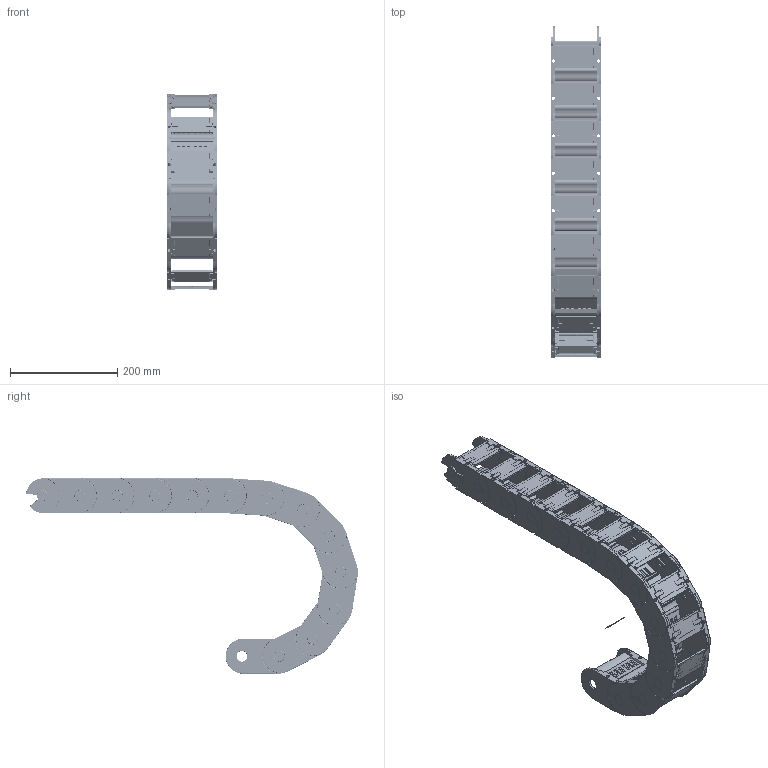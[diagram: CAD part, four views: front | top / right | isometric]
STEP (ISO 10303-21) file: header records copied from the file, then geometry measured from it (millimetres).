
FILE_DESCRIPTION((''),'2;1');
FILE_NAME('C:\Uebbing\PARAMETERKETTEN\KOLIBRI\Kol_65_095_1\KOLIBRI 65_095_1_R150.stp','2012-03-06T08:23:45',('Uebbing'),(''),'Autodesk Inventor 10','Autodesk Inventor 10','');
FILE_SCHEMA(('AUTOMOTIVE_DESIGN { 1 0 10303 214 1 1 1 1 }'));
Length unit declared in the file: millimetre
Products named in the file (5): KOLIBRI 65_095_1_PARAMETRISCH; Achse; Kol_65_095_1; Kol_65_095_1 Klappsteg; Kol_65_095_5 Lasche
Assembly tree (16 placements, depth 3):
  KOLIBRI 65_095_1_PARAMETRISCH
    Achse
    Kol_65_095_1  x13
      Kol_65_095_1 Klappsteg
      Kol_65_095_5 Lasche
Bounding box: 95 x 619.87 x 365 mm (x, y, z)
Volume: 1226428 mm3; surface area: 770469.7 mm2
Topology: 27 solids, 27 shells, 6711 faces, 18360 edges, 11768 vertices
Faces by surface type: plane 2888, bspline 2405, cylinder 1184, torus 156, cone 52, sphere 26
Full cylindrical faces by diameter (mm): 1 x1, 2.514 x13, 4 x39, 4.414 x13, 6 x26, 20 x26
Entity records: 17476 total; most frequent: CARTESIAN_POINT 4695, ORIENTED_EDGE 2758, DIRECTION 2385, EDGE_CURVE 1379, VECTOR 1007, LINE 1007, VERTEX_POINT 896, AXIS2_PLACEMENT_3D 689
